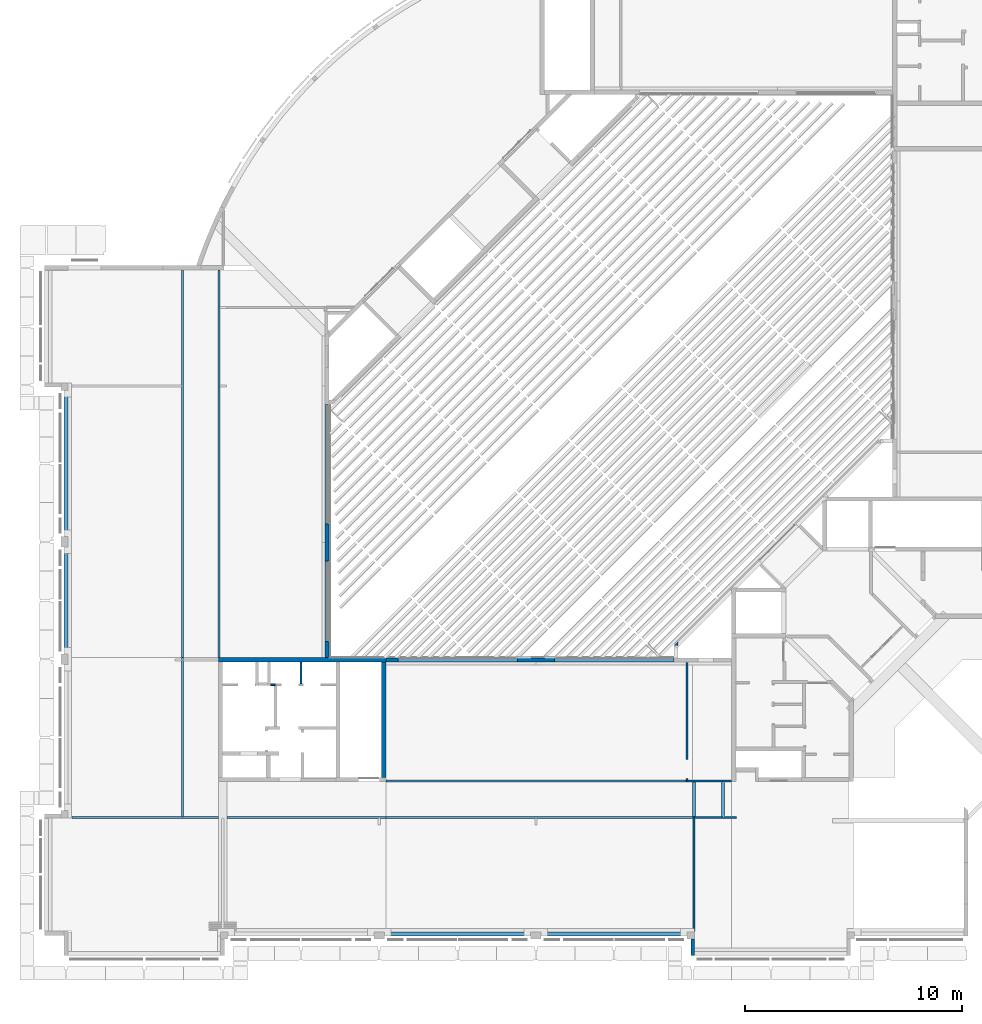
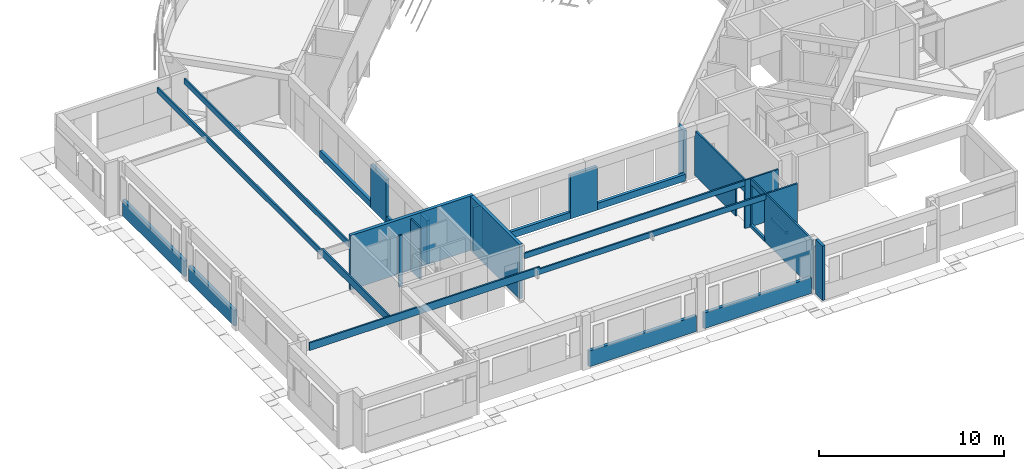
# One storey, part 25 of 37: 28 walls.
"""IFC4X3_ADD2 building model written with IfcOpenShell, lengths in millimetres."""

from ifc_helpers import new_model, si_unit, direction, frame, frame_2d, origin_with_axes, origin_2d_with_axis, place, context, subcontext, project, spatial, polyline, rectangle, outline, extrude, source, transform, mapped, material, type_object, type_shapes, element, save


model = new_model("IFC4X3_ADD2")

# Units and contexts
model_context = context("Model", 3, precision=1e-05, world=origin_with_axes(), true_north=direction((0.0, 1.0)))
body_context = subcontext(model_context, "Body", "Model", "MODEL_VIEW")
ifc_project = project(units=[si_unit("LENGTHUNIT", "METRE", prefix="MILLI"), si_unit("AREAUNIT", "SQUARE_METRE"), si_unit("VOLUMEUNIT", "CUBIC_METRE"), si_unit("PLANEANGLEUNIT", "RADIAN"), si_unit("TIMEUNIT", "SECOND"), si_unit("MASSUNIT", "GRAM")], contexts=[model_context])

# Site, building, storey
site_placement = place(None, origin_with_axes())
site = spatial("IfcSite", under=ifc_project, at=site_placement, Name="Site", CompositionType="ELEMENT")
building_placement = place(site_placement, origin_with_axes())
building = spatial("IfcBuilding", under=site, at=building_placement, Name="IFC Building Story")
storey_placement = place(building_placement, frame((0.0, 0.0, 3600.0), z_axis=(0.0, 0.0, 1.0), x_axis=(1.0, 0.0, 0.0)))
storey = spatial("IfcBuildingStorey", under=building, at=storey_placement, Name="010", Elevation=3600.0)

# Walls
ifc_material_1 = material(Name="BB_Beton_Bestaand")
wall_type_1 = type_object("IfcWallType", Name="BB_Beton_Bestaand 200", PredefinedType="NOTDEFINED", material=ifc_material_1)
wall_1_placement = place(storey_placement, origin_with_axes())
element("IfcWall", 1, at=wall_1_placement, inside=storey, type_object=wall_type_1, Name="Basic Wall:BB_XX_Wand uit beton, 200 mm", ObjectType="Basic Wall:BB_XX_Wand uit beton, 200 mm", PredefinedType="SOLIDWALL", context=body_context, shape_type="SweptSolid", body=[
    extrude(rectangle(XDim=7699.999999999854, YDim=199.9999999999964, at=origin_2d_with_axis()), frame((-39850.00000000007, 12600.0040658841, -80.0), z_axis=(0.0, 0.0, 1.0), x_axis=(1.0, 0.0, 0.0)), (0.0, 0.0, 1.0), 3600.0),
])
wall_2_placement = place(storey_placement, origin_with_axes())
element("IfcWall", 2, at=wall_2_placement, inside=storey, type_object=wall_type_1, Name="Basic Wall:BB_XX_Wand uit beton, 200 mm", ObjectType="Basic Wall:BB_XX_Wand uit beton, 200 mm", PredefinedType="SOLIDWALL", context=body_context, shape_type="SweptSolid", body=[
    extrude(rectangle(XDim=5300.00406588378, YDim=200.0, at=frame_2d((0.0, 0.0), x_axis=(0.0, 1.0))), frame((-36100.0, 9850.002032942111, -80.0), z_axis=(0.0, 0.0, 1.0), x_axis=(1.0, 0.0, 0.0)), (0.0, 0.0, 1.0), 3600.0),
])
wall_type_2 = type_object("IfcWallType", Name="BB_Beton_Bestaand 190", PredefinedType="NOTDEFINED", material=ifc_material_1)
wall_3_placement = place(storey_placement, origin_with_axes())
element("IfcWall", 3, at=wall_3_placement, inside=storey, type_object=wall_type_2, Name="Basic Wall:BB_XX_Wand uit beton, 190 mm", ObjectType="Basic Wall:BB_XX_Wand uit beton, 190 mm", PredefinedType="SOLIDWALL", context=body_context, shape_type="SweptSolid", body=[
    extrude(rectangle(XDim=4910.0, YDim=189.9999999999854, at=frame_2d((0.0, 0.0), x_axis=(0.0, 1.0))), frame((-50700.0, 15300.00000000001, -200.0), z_axis=(0.0, 0.0, 1.0), x_axis=(1.0, 0.0, 0.0)), (0.0, 0.0, 1.0), 1040.0),
])
wall_4_placement = place(storey_placement, origin_with_axes())
element("IfcWall", 4, at=wall_4_placement, inside=storey, type_object=wall_type_2, Name="Basic Wall:BB_XX_Wand uit beton, 190 mm", ObjectType="Basic Wall:BB_XX_Wand uit beton, 190 mm", PredefinedType="SOLIDWALL", context=body_context, shape_type="SweptSolid", body=[
    extrude(rectangle(XDim=6710.000000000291, YDim=189.9999999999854, at=frame_2d((0.0, 0.0), x_axis=(0.0, 1.0))), frame((-50700.0, 21600.00000000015, -200.0), z_axis=(0.0, 0.0, 1.0), x_axis=(1.0, 0.0, 0.0)), (0.0, 0.0, 1.0), 1040.0),
])
wall_5_placement = place(storey_placement, origin_with_axes())
element("IfcWall", 5, at=wall_5_placement, inside=storey, type_object=wall_type_2, Name="Basic Wall:BB_XX_Wand uit beton, 190 mm", ObjectType="Basic Wall:BB_XX_Wand uit beton, 190 mm", PredefinedType="SOLIDWALL", context=body_context, shape_type="SweptSolid", body=[
    extrude(rectangle(XDim=6709.999999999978, YDim=190.0, at=origin_2d_with_axis()), frame((-32700.00000000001, 0.0, -200.0), z_axis=(0.0, 0.0, 1.0), x_axis=(1.0, 0.0, 0.0)), (0.0, 0.0, 1.0), 1040.0),
])
wall_6_placement = place(storey_placement, origin_with_axes())
element("IfcWall", 6, at=wall_6_placement, inside=storey, type_object=wall_type_2, Name="Basic Wall:BB_XX_Wand uit beton, 190 mm", ObjectType="Basic Wall:BB_XX_Wand uit beton, 190 mm", PredefinedType="SOLIDWALL", context=body_context, shape_type="SweptSolid", body=[
    extrude(rectangle(XDim=6709.999999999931, YDim=190.0, at=origin_2d_with_axis()), frame((-25500.00000000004, 0.0, -200.0), z_axis=(0.0, 0.0, 1.0), x_axis=(1.0, 0.0, 0.0)), (0.0, 0.0, 1.0), 1040.0),
])
wall_7_placement = place(storey_placement, origin_with_axes())
element("IfcWall", 7, at=wall_7_placement, inside=storey, type_object=wall_type_2, Name="Basic Wall:BB_XX_Wand uit beton, 190 mm", ObjectType="Basic Wall:BB_XX_Wand uit beton, 190 mm", PredefinedType="SOLIDWALL", context=body_context, shape_type="SweptSolid", body=[
    extrude(rectangle(XDim=554.9999999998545, YDim=190.0, at=origin_2d_with_axis()), frame((-35722.50000000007, 12600.004065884, -200.0), z_axis=(0.0, 0.0, 1.0), x_axis=(1.0, 0.0, 0.0)), (0.0, 0.0, 1.0), 2880.0),
])
wall_8_placement = place(storey_placement, origin_with_axes())
element("IfcWall", 8, at=wall_8_placement, inside=storey, type_object=wall_type_2, Name="Basic Wall:BB_XX_Wand uit beton, 190 mm", ObjectType="Basic Wall:BB_XX_Wand uit beton, 190 mm", PredefinedType="SOLIDWALL", context=body_context, shape_type="SweptSolid", body=[
    extrude(rectangle(XDim=1709.999999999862, YDim=190.0, at=origin_2d_with_axis()), frame((-29100.0, 12600.004065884, -200.0), z_axis=(0.0, 0.0, 1.0), x_axis=(1.0, 0.0, 0.0)), (0.0, 0.0, 1.0), 2880.0),
])
wall_9_placement = place(storey_placement, origin_with_axes())
element("IfcWall", 9, at=wall_9_placement, inside=storey, type_object=wall_type_2, Name="Basic Wall:BB_XX_Wand uit beton, 190 mm", ObjectType="Basic Wall:BB_XX_Wand uit beton, 190 mm", PredefinedType="SOLIDWALL", context=body_context, shape_type="SweptSolid", body=[
    extrude(rectangle(XDim=754.995934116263, YDim=190.0, at=frame_2d((0.0, 0.0), x_axis=(0.0, 1.0))), frame((-38700.0, 13077.50203294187, -200.0), z_axis=(0.0, 0.0, 1.0), x_axis=(1.0, 0.0, 0.0)), (0.0, 0.0, 1.0), 2880.0),
])
wall_10_placement = place(storey_placement, origin_with_axes())
element("IfcWall", 10, at=wall_10_placement, inside=storey, type_object=wall_type_2, Name="Basic Wall:BB_XX_Wand uit beton, 190 mm", ObjectType="Basic Wall:BB_XX_Wand uit beton, 190 mm", PredefinedType="SOLIDWALL", context=body_context, shape_type="SweptSolid", body=[
    extrude(rectangle(XDim=1710.0, YDim=190.0, at=frame_2d((0.0, 0.0), x_axis=(0.0, 1.0))), frame((-38700.0, 18000.0, -200.0), z_axis=(0.0, 0.0, 1.0), x_axis=(1.0, 0.0, 0.0)), (0.0, 0.0, 1.0), 2880.0),
])
wall_11_placement = place(storey_placement, origin_with_axes())
element("IfcWall", 11, at=wall_11_placement, inside=storey, type_object=wall_type_2, Name="Basic Wall:BB_XX_Wand uit beton, 190 mm", ObjectType="Basic Wall:BB_XX_Wand uit beton, 190 mm", PredefinedType="SOLIDWALL", context=body_context, shape_type="SweptSolid", body=[
    extrude(rectangle(XDim=3689.999999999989, YDim=190.0, at=frame_2d((0.0, 0.0), x_axis=(0.0, 1.0))), frame((-38700.0, 15300.00000000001, -200.0), z_axis=(0.0, 0.0, 1.0), x_axis=(1.0, 0.0, 0.0)), (0.0, 0.0, 1.0), 449.999999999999),
])
wall_12_placement = place(storey_placement, origin_with_axes())
element("IfcWall", 12, at=wall_12_placement, inside=storey, type_object=wall_type_2, Name="Basic Wall:BB_XX_Wand uit beton, 190 mm", ObjectType="Basic Wall:BB_XX_Wand uit beton, 190 mm", PredefinedType="SOLIDWALL", context=body_context, shape_type="SweptSolid", body=[
    extrude(rectangle(XDim=5489.999999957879, YDim=190.0, at=frame_2d((0.0, 0.0), x_axis=(0.0, 1.0))), frame((-38700.0, 21600.00000002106, -200.0), z_axis=(0.0, 0.0, 1.0), x_axis=(1.0, 0.0, 0.0)), (0.0, 0.0, 1.0), 449.999999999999),
])
wall_13_placement = place(storey_placement, origin_with_axes())
element("IfcWall", 13, at=wall_13_placement, inside=storey, type_object=wall_type_2, Name="Basic Wall:BB_XX_Wand uit beton, 190 mm", ObjectType="Basic Wall:BB_XX_Wand uit beton, 190 mm", PredefinedType="SOLIDWALL", context=body_context, shape_type="SweptSolid", body=[
    extrude(rectangle(XDim=5490.000000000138, YDim=190.0, at=origin_2d_with_axis()), frame((-25499.99999999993, 12600.004065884, -200.0), z_axis=(0.0, 0.0, 1.0), x_axis=(1.0, 0.0, 0.0)), (0.0, 0.0, 1.0), 449.999999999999),
])
wall_14_placement = place(storey_placement, origin_with_axes())
element("IfcWall", 14, at=wall_14_placement, inside=storey, type_object=wall_type_2, Name="Basic Wall:BB_XX_Wand uit beton, 190 mm", ObjectType="Basic Wall:BB_XX_Wand uit beton, 190 mm", PredefinedType="SOLIDWALL", context=body_context, shape_type="SweptSolid", body=[
    extrude(rectangle(XDim=5490.0, YDim=190.0, at=origin_2d_with_axis()), frame((-32700.0, 12600.004065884, -200.0), z_axis=(0.0, 0.0, 1.0), x_axis=(1.0, 0.0, 0.0)), (0.0, 0.0, 1.0), 449.999999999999),
])
wall_type_3 = type_object("IfcWallType", Name="BB_Beton_Bestaand 170", PredefinedType="NOTDEFINED", material=ifc_material_1)
wall_15_placement = place(storey_placement, origin_with_axes())
element("IfcWall", 15, at=wall_15_placement, inside=storey, type_object=wall_type_3, Name="Basic Wall:BB_XX_Wand uit beton, 170 mm", ObjectType="Basic Wall:BB_XX_Wand uit beton, 170 mm", PredefinedType="SOLIDWALL", context=body_context, shape_type="SweptSolid", body=[
    extrude(rectangle(XDim=750.00000000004, YDim=169.9999999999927, at=frame_2d((0.0, 0.0), x_axis=(0.0, 1.0))), frame((-21890.0, -619.99999999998, -200.0), z_axis=(0.0, 0.0, 1.0), x_axis=(1.0, 0.0, 0.0)), (0.0, 0.0, 1.0), 3600.0),
])
ifc_material_2 = material(Name="BB_Metselwerk_Betonsteen")
wall_type_4 = type_object("IfcWallType", Name="BB_Metselwerk_Betonsteen 190", PredefinedType="NOTDEFINED", material=ifc_material_2)
wall_16_placement = place(storey_placement, origin_with_axes())
element("IfcWall", 16, at=wall_16_placement, inside=storey, type_object=wall_type_4, Name="Basic Wall:BB_03.09.24#03_Wand uit metselwerk, 190 mm", ObjectType="Basic Wall:BB_03.09.24#03_Wand uit metselwerk, 190 mm", PredefinedType="SOLIDWALL", context=body_context, shape_type="SweptSolid", body=[
    extrude(outline(polyline([(95.0, 424.8958182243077), (95.0, -329.8958182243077), (-95.0, -329.8958182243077), (-95.0, 234.8958182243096), (95.0, 424.8958182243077)])), frame((-22649.8526351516, 13024.89988410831, -200.0), z_axis=(0.0, 0.0, 1.0), x_axis=(1.0, 0.0, 0.0)), (0.0, 0.0, 1.0), 3200.00000005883),
])
wall_type_5 = type_object("IfcWallType", Name="Basic Wall_BB_10.01.41#21_Gipskartonwand_EI60_43dB_MS100 _ 25.50.25_ 100 mm21", PredefinedType="NOTDEFINED")
shared_shape_1 = source(origin_with_axes(), body_context, "Body", "SweptSolid", [
    extrude(rectangle(XDim=2085.000000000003, YDim=12.49999999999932, at=origin_2d_with_axis()), frame((1042.500000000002, 43.74999999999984, 0.0), z_axis=(0.0, 0.0, 1.0), x_axis=(1.0, 0.0, 0.0)), (0.0, 0.0, 1.0), 3200.0),
    extrude(outline(polyline([(-1385.833333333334, -2068.333333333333), (-1385.833333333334, 1131.666666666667), (699.1666666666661, 1131.666666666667), (699.1666666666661, 936.6666666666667), (686.6666666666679, 936.6666666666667), (686.6666666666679, -2068.333333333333), (-1385.833333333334, -2068.333333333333)])), frame((1385.833333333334, 25.0000000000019, 1131.666666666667), z_axis=(0.0, 1.0, 0.0), x_axis=(1.0, 0.0, 0.0)), (0.0, 0.0, 1.0), 12.5000000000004),
    extrude(outline(polyline([(-1381.666666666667, -2068.333333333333), (-1381.666666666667, 1131.666666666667), (703.333333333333, 1131.666666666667), (703.333333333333, 936.6666666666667), (678.3333333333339, 936.6666666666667), (678.3333333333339, -2068.333333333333), (-1381.666666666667, -2068.333333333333)])), frame((1381.666666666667, -24.9999999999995, 1131.666666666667), z_axis=(0.0, 1.0, 0.0), x_axis=(1.0, 0.0, 0.0)), (0.0, 0.0, 1.0), 49.9999999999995),
    extrude(outline(polyline([(-1365.000000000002, -2068.333333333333), (-1365.000000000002, 1131.666666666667), (720.0000000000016, 1131.666666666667), (720.0000000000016, 936.6666666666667), (645.0, 936.6666666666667), (645.0, -2068.333333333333), (-1365.000000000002, -2068.333333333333)])), frame((1365.000000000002, -37.5000000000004, 1131.666666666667), z_axis=(0.0, 1.0, 0.0), x_axis=(1.0, 0.0, 0.0)), (0.0, 0.0, 1.0), 12.5000000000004),
    extrude(outline(polyline([(-1360.833333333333, -2068.333333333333), (-1360.833333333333, 1131.666666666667), (724.1666666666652, 1131.666666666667), (724.1666666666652, 936.6666666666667), (636.6666666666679, 936.6666666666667), (636.6666666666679, -2068.333333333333), (-1360.833333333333, -2068.333333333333)])), frame((1360.833333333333, -49.9999999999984, 1131.666666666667), z_axis=(0.0, 1.0, 0.0), x_axis=(1.0, 0.0, 0.0)), (0.0, 0.0, 1.0), 12.5000000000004),
])
type_shapes(wall_type_5, [shared_shape_1])
wall_17_placement = place(storey_placement, frame((-20115.0, 7035.13019419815, -200.0), z_axis=(0.0, 0.0, 1.0), x_axis=(-1.0, 0.0, 0.0)))
element("IfcWall", 17, at=wall_17_placement, inside=storey, type_object=wall_type_5, Name="Basic Wall:BB_10.01.41#21_Gipskartonwand_EI60_43dB_MS100 / 25.50.25, 100 mm", ObjectType="Basic Wall:BB_10.01.41#21_Gipskartonwand_EI60_43dB_MS100 / 25.50.25, 100 mm", PredefinedType="PARTITIONING", context=body_context, shape_type="MappedRepresentation", body=[
    mapped(shared_shape_1, transform((0.0, 0.0, 0.0))),
])
wall_type_6 = type_object("IfcWallType", Name="Basic Wall_BB_10.01.41#01_Gipskartonwand_MS100 _ 25.50.25_ 100 mm21", PredefinedType="NOTDEFINED")
shared_shape_2 = source(origin_with_axes(), body_context, "Body", "SweptSolid", [
    extrude(outline(polyline([(-2398.949548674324, 1571.000000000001), (-2261.449548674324, 1571.000000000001), (-2261.449548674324, -594.0000000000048), (-1371.449548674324, -594.0000000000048), (-1371.449548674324, 1571.000000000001), (3083.424323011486, 1571.000000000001), (3083.424323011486, -1113.999999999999), (2948.424323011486, -1113.999999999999), (2948.424323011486, -1433.999999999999), (-2398.949548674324, -1433.999999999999), (-2398.949548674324, 1571.000000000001)])), frame((2311.449548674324, 37.49999999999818, 1571.000000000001), z_axis=(0.0, 1.0, 0.0), x_axis=(1.0, 0.0, 0.0)), (0.0, 0.0, 1.0), 12.50000000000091),
    extrude(outline(polyline([(-1373.949548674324, -594.0000000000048), (-1373.949548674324, 1571.000000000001), (3080.924323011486, 1571.000000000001), (3080.924323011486, -1113.999999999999), (2945.924323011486, -1113.999999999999), (2945.924323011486, -1433.999999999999), (-2388.949548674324, -1433.999999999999), (-2388.949548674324, 1571.000000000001), (-2263.949548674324, 1571.000000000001), (-2263.949548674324, -594.0000000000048), (-1373.949548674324, -594.0000000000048)])), frame((2313.949548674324, 24.99999999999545, 1571.000000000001), z_axis=(0.0, 1.0, 0.0), x_axis=(1.0, 0.0, 0.0)), (0.0, 0.0, 1.0), 12.50000000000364),
    extrude(outline(polyline([(-1385.949548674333, -594.0000000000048), (-1385.949548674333, 1571.000000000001), (3068.924323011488, 1571.000000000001), (3068.924323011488, -1113.999999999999), (2943.924323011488, -1113.999999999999), (2943.924323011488, -1433.999999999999), (-2350.949548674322, -1433.999999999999), (-2350.949548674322, 1571.000000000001), (-2275.949548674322, 1571.000000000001), (-2275.949548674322, -594.0000000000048), (-1385.949548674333, -594.0000000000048)])), frame((2325.949548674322, -24.99999999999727, 1571.000000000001), z_axis=(0.0, 1.0, 0.0), x_axis=(1.0, 0.0, 0.0)), (0.0, 0.0, 1.0), 49.99999999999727),
    extrude(outline(polyline([(-1386.44954867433, -594.0000000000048), (-1386.44954867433, 1571.000000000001), (3068.42432301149, 1571.000000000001), (3068.42432301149, -1113.999999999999), (2933.42432301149, -1113.999999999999), (2933.42432301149, -1433.999999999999), (-2338.94954867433, -1433.999999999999), (-2338.94954867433, 1571.000000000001), (-2276.449548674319, 1571.000000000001), (-2276.449548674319, -594.0000000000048), (-1386.44954867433, -594.0000000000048)])), frame((2326.449548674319, -37.50000000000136, 1571.000000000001), z_axis=(0.0, 1.0, 0.0), x_axis=(1.0, 0.0, 0.0)), (0.0, 0.0, 1.0), 12.50000000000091),
    extrude(outline(polyline([(2930.924323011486, -1433.999999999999), (-2328.949548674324, -1433.999999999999), (-2328.949548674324, 1571.000000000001), (-2278.949548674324, 1571.000000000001), (-2278.949548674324, -594.0000000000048), (-1388.949548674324, -594.0000000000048), (-1388.949548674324, 1571.000000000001), (3065.924323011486, 1571.000000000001), (3065.924323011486, -1113.999999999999), (2930.924323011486, -1113.999999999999), (2930.924323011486, -1433.999999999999)])), frame((2328.949548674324, -49.99999999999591, 1571.000000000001), z_axis=(0.0, 1.0, 0.0), x_axis=(1.0, 0.0, 0.0)), (0.0, 0.0, 1.0), 12.49999999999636),
])
type_shapes(wall_type_6, [shared_shape_2])
wall_18_placement = place(storey_placement, frame((-22150.0, 7085.13019419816, -5.0), z_axis=(0.0, 0.0, 1.0), x_axis=(0.0, 1.0, 0.0)))
element("IfcWall", 18, at=wall_18_placement, inside=storey, type_object=wall_type_6, Name="Basic Wall:BB_10.01.41#01_Gipskartonwand_MS100 / 25.50.25, 100 mm", ObjectType="Basic Wall:BB_10.01.41#01_Gipskartonwand_MS100 / 25.50.25, 100 mm", PredefinedType="PARTITIONING", context=body_context, shape_type="MappedRepresentation", body=[
    mapped(shared_shape_2, transform((0.0, 0.0, 0.0))),
])
wall_type_7 = type_object("IfcWallType", Name="Basic Wall_BB_10.01.41#21_Gipskartonwand_EI60_43dB_MS100 _ 25.50.25_ 100 mm23", PredefinedType="NOTDEFINED")
shared_shape_3 = source(origin_with_axes(), body_context, "Body", "SweptSolid", [
    extrude(rectangle(XDim=1895.000000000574, YDim=12.49999999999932, at=origin_2d_with_axis()), frame((947.500000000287, 43.75000000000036, 0.0), z_axis=(0.0, 0.0, 1.0), x_axis=(1.0, 0.0, 0.0)), (0.0, 0.0, 1.0), 3207.06432301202),
    extrude(rectangle(XDim=1895.000000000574, YDim=12.5000000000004, at=origin_2d_with_axis()), frame((947.500000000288, 31.2500000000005, 0.0), z_axis=(0.0, 0.0, 1.0), x_axis=(1.0, 0.0, 0.0)), (0.0, 0.0, 1.0), 3207.06432301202),
    extrude(outline(polyline([(-648.3333333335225, 2135.688107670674), (1271.666666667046, 2135.688107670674), (1271.666666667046, -1071.376215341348), (-623.3333333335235, -1071.376215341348), (-623.3333333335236, -1064.311892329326), (-648.3333333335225, -1064.311892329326), (-648.3333333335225, 2135.688107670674)])), frame((623.3333333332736, -25.0, 2135.688107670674), z_axis=(0.0, 1.0, 0.0), x_axis=(1.0, 0.0, 0.0)), (0.0, 0.0, 1.0), 49.9999999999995),
    extrude(outline(polyline([(-640.000000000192, 2135.688107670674), (1267.500000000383, 2135.688107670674), (1267.500000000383, -1071.376215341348), (-627.500000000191, -1071.376215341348), (-627.500000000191, -1064.311892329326), (-640.000000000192, -1064.311892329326), (-640.000000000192, 2135.688107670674)])), frame((627.500000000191, -37.50000000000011, 2135.688107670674), z_axis=(0.0, 1.0, 0.0), x_axis=(1.0, 0.0, 0.0)), (0.0, 0.0, 1.0), 12.50000000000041),
    extrude(rectangle(XDim=1895.000000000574, YDim=12.50000000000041, at=origin_2d_with_axis()), frame((947.5000000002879, -43.7499999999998, 0.0), z_axis=(0.0, 0.0, 1.0), x_axis=(1.0, 0.0, 0.0)), (0.0, 0.0, 1.0), 3207.06432301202),
])
type_shapes(wall_type_7, [shared_shape_3])
wall_19_placement = place(storey_placement, frame((-21780.0, 5350.0, -200.0), z_axis=(0.0, 0.0, 1.0), x_axis=(1.0, 0.0, 0.0)))
element("IfcWall", 19, at=wall_19_placement, inside=storey, type_object=wall_type_7, Name="Basic Wall:BB_10.01.41#21_Gipskartonwand_EI60_43dB_MS100 / 25.50.25, 100 mm", ObjectType="Basic Wall:BB_10.01.41#21_Gipskartonwand_EI60_43dB_MS100 / 25.50.25, 100 mm", PredefinedType="PARTITIONING", context=body_context, shape_type="MappedRepresentation", body=[
    mapped(shared_shape_3, transform((0.0, 0.0, 0.0))),
])
wall_type_8 = type_object("IfcWallType", Name="Basic Wall_BB_10.01.41#01_Gipskartonwand_MS100 _ 25.50.25_ 100 mm49", PredefinedType="NOTDEFINED")
shared_shape_4 = source(origin_with_axes(), body_context, "Body", "SweptSolid", [
    extrude(rectangle(XDim=13800.00000000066, YDim=12.49999999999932, at=origin_2d_with_axis()), frame((6900.0, 43.7499999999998, 0.0), z_axis=(0.0, 0.0, 1.0), x_axis=(1.0, 0.0, 0.0)), (0.0, 0.0, 1.0), 360.0),
    extrude(rectangle(XDim=13800.00000000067, YDim=12.5000000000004, at=origin_2d_with_axis()), frame((6899.999999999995, 31.2500000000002, 0.0), z_axis=(0.0, 0.0, 1.0), x_axis=(1.0, 0.0, 0.0)), (0.0, 0.0, 1.0), 360.0),
    extrude(rectangle(XDim=13800.00000000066, YDim=49.9999999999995, at=origin_2d_with_axis()), frame((6900.0, 0.0, 0.0), z_axis=(0.0, 0.0, 1.0), x_axis=(1.0, 0.0, 0.0)), (0.0, 0.0, 1.0), 360.0),
    extrude(rectangle(XDim=13800.00000000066, YDim=12.5000000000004, at=origin_2d_with_axis()), frame((6900.000000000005, -31.2499999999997, 0.0), z_axis=(0.0, 0.0, 1.0), x_axis=(1.0, 0.0, 0.0)), (0.0, 0.0, 1.0), 360.0),
    extrude(rectangle(XDim=13800.00000000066, YDim=12.50000000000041, at=origin_2d_with_axis()), frame((6900.0, -43.75000000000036, 0.0), z_axis=(0.0, 0.0, 1.0), x_axis=(1.0, 0.0, 0.0)), (0.0, 0.0, 1.0), 360.0),
])
type_shapes(wall_type_8, [shared_shape_4])
wall_20_placement = place(storey_placement, frame((-22200.0, 7035.13019419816, 2640.0), z_axis=(0.0, 0.0, 1.0), x_axis=(-1.0, 0.0, 0.0)))
element("IfcWall", 20, at=wall_20_placement, inside=storey, type_object=wall_type_8, Name="Basic Wall:BB_10.01.41#01_Gipskartonwand_MS100 / 25.50.25, 100 mm", ObjectType="Basic Wall:BB_10.01.41#01_Gipskartonwand_MS100 / 25.50.25, 100 mm", PredefinedType="PARTITIONING", context=body_context, shape_type="MappedRepresentation", body=[
    mapped(shared_shape_4, transform((0.0, 0.0, 0.0))),
])
wall_type_9 = type_object("IfcWallType", Name="Basic Wall_BB_10.01.41#01_Gipskartonwand_MS100 _ 25.50.25_ 100 mm51", PredefinedType="NOTDEFINED")
shared_shape_5 = source(origin_with_axes(), body_context, "Body", "SweptSolid", [
    extrude(outline(polyline([(-11367.99999999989, 364.0), (17181.99999999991, 364.0), (17181.99999999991, 3.999999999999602), (3062.000000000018, 3.999999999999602), (3062.000000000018, -135.9999999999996), (-4238.000000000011, -135.9999999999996), (-4238.000000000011, -96.0), (-4638.000000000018, -96.0), (-4638.000000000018, -136.0), (-11367.99999999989, -135.9999999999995), (-11367.99999999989, 364.0)])), frame((11367.99999999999, 37.50000000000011, 363.9999999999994), z_axis=(0.0, 1.0, 0.0), x_axis=(1.0, 0.0, 0.0)), (0.0, 0.0, 1.0), 12.4999999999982),
    extrude(outline(polyline([(-11367.99999999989, 364.0), (17181.99999999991, 364.0), (17181.99999999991, 3.999999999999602), (3062.000000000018, 3.999999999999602), (3062.000000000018, -135.9999999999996), (-4238.000000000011, -135.9999999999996), (-4238.000000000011, -96.0), (-4638.000000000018, -96.0), (-4638.000000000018, -136.0), (-11367.99999999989, -135.9999999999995), (-11367.99999999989, 364.0)])), frame((11367.99999999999, 25.0, 363.9999999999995), z_axis=(0.0, 1.0, 0.0), x_axis=(1.0, 0.0, 0.0)), (0.0, 0.0, 1.0), 12.5000000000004),
    extrude(outline(polyline([(-11367.99999999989, 364.0), (17181.99999999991, 364.0), (17181.99999999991, 3.999999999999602), (3062.000000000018, 3.999999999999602), (3062.000000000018, -135.9999999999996), (-4238.000000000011, -135.9999999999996), (-4238.000000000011, -96.0), (-4638.000000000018, -96.0), (-4638.000000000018, -136.0), (-11367.99999999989, -135.9999999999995), (-11367.99999999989, 364.0)])), frame((11367.99999999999, -25.0, 363.9999999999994), z_axis=(0.0, 1.0, 0.0), x_axis=(1.0, 0.0, 0.0)), (0.0, 0.0, 1.0), 49.9999999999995),
    extrude(outline(polyline([(-11367.99999999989, 364.0), (17181.99999999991, 364.0), (17181.99999999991, 3.999999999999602), (3062.000000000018, 3.999999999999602), (3062.000000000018, -135.9999999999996), (-4238.000000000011, -135.9999999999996), (-4238.000000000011, -96.0), (-4638.000000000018, -96.0), (-4638.000000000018, -136.0), (-11367.99999999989, -135.9999999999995), (-11367.99999999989, 364.0)])), frame((11367.99999999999, -37.50000000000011, 363.9999999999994), z_axis=(0.0, 1.0, 0.0), x_axis=(1.0, 0.0, 0.0)), (0.0, 0.0, 1.0), 12.5000000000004),
    extrude(outline(polyline([(-11367.99999999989, 364.0), (17181.99999999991, 364.0), (17181.99999999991, 3.999999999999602), (3062.000000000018, 3.999999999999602), (3062.000000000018, -135.9999999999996), (-4238.000000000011, -135.9999999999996), (-4238.000000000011, -96.0), (-4638.000000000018, -96.0), (-4638.000000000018, -136.0), (-11367.99999999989, -135.9999999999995), (-11367.99999999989, 364.0)])), frame((11368.0000000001, -50.0, 363.9999999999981), z_axis=(0.0, 1.0, 0.0), x_axis=(1.0, 0.0, 0.0)), (0.0, 0.0, 1.0), 12.50000000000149),
])
type_shapes(wall_type_9, [shared_shape_5])
wall_21_placement = place(storey_placement, frame((-50430.0, 5350.0, 2640.0), z_axis=(0.0, 0.0, 1.0), x_axis=(1.0, 0.0, 0.0)))
element("IfcWall", 21, at=wall_21_placement, inside=storey, type_object=wall_type_9, Name="Basic Wall:BB_10.01.41#01_Gipskartonwand_MS100 / 25.50.25, 100 mm", ObjectType="Basic Wall:BB_10.01.41#01_Gipskartonwand_MS100 / 25.50.25, 100 mm", PredefinedType="PARTITIONING", context=body_context, shape_type="MappedRepresentation", body=[
    mapped(shared_shape_5, transform((0.0, 0.0, 0.0))),
])
wall_type_10 = type_object("IfcWallType", Name="Basic Wall_BB_10.01.41#01_Gipskartonwand_MS100 _ 25.50.25_ 100 mm57", PredefinedType="NOTDEFINED")
shared_shape_6 = source(origin_with_axes(), body_context, "Body", "SweptSolid", [
    extrude(rectangle(XDim=17824.99593411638, YDim=12.49999999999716, at=origin_2d_with_axis()), frame((8912.49796705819, 43.74999999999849, 0.0), z_axis=(0.0, 0.0, 1.0), x_axis=(1.0, 0.0, 0.0)), (0.0, 0.0, 1.0), 360.0),
    extrude(rectangle(XDim=17824.99593411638, YDim=12.49999999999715, at=origin_2d_with_axis()), frame((8912.49796705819, 31.2500000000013, 0.0), z_axis=(0.0, 0.0, 1.0), x_axis=(1.0, 0.0, 0.0)), (0.0, 0.0, 1.0), 360.0),
    extrude(rectangle(XDim=17834.99593411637, YDim=50.0000000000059, at=origin_2d_with_axis()), frame((8917.497967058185, -4.32631708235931e-12, 0.0), z_axis=(0.0, 0.0, 1.0), x_axis=(1.0, 0.0, 0.0)), (0.0, 0.0, 1.0), 360.0),
    extrude(rectangle(XDim=17834.99593411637, YDim=12.49999999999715, at=origin_2d_with_axis()), frame((8917.497967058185, -31.2500000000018, 0.0), z_axis=(0.0, 0.0, 1.0), x_axis=(1.0, 0.0, 0.0)), (0.0, 0.0, 1.0), 360.0),
    extrude(rectangle(XDim=17834.99593411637, YDim=12.50000000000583, at=origin_2d_with_axis()), frame((8917.497967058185, -43.75000000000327, 0.0), z_axis=(0.0, 0.0, 1.0), x_axis=(1.0, 0.0, 0.0)), (0.0, 0.0, 1.0), 360.0),
])
type_shapes(wall_type_10, [shared_shape_6])
wall_22_placement = place(storey_placement, frame((-43665.0, 12700.004065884, 2640.0), z_axis=(0.0, 0.0, 1.0), x_axis=(0.0, 1.0, 0.0)))
element("IfcWall", 22, at=wall_22_placement, inside=storey, type_object=wall_type_10, Name="Basic Wall:BB_10.01.41#01_Gipskartonwand_MS100 / 25.50.25, 100 mm", ObjectType="Basic Wall:BB_10.01.41#01_Gipskartonwand_MS100 / 25.50.25, 100 mm", PredefinedType="PARTITIONING", context=body_context, shape_type="MappedRepresentation", body=[
    mapped(shared_shape_6, transform((0.0, 0.0, 0.0))),
])
wall_type_11 = type_object("IfcWallType", Name="Basic Wall_BB_10.01.41#01_Gipskartonwand_MS100 _ 25.50.25_ 100 mm59", PredefinedType="NOTDEFINED")
shared_shape_7 = source(origin_with_axes(), body_context, "Body", "SweptSolid", [
    extrude(outline(polyline([(-14316.66531137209, 286.6666666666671), (10808.33468862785, 286.6666666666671), (10808.33468862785, -213.3333333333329), (3508.330622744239, -213.3333333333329), (3508.330622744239, -73.33333333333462), (-14316.66531137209, -73.33333333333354), (-14316.66531137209, 286.6666666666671)])), frame((14301.66531137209, 37.5, 286.6666666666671), z_axis=(0.0, 1.0, 0.0), x_axis=(1.0, 0.0, 0.0)), (0.0, 0.0, 1.0), 12.49999999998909),
    extrude(outline(polyline([(-14316.66531137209, 286.6666666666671), (10808.33468862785, 286.6666666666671), (10808.33468862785, -213.3333333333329), (3508.330622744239, -213.3333333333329), (3508.330622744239, -73.33333333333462), (-14316.66531137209, -73.33333333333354), (-14316.66531137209, 286.6666666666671)])), frame((14301.66531137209, 25.0, 286.6666666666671), z_axis=(0.0, 1.0, 0.0), x_axis=(1.0, 0.0, 0.0)), (0.0, 0.0, 1.0), 12.49999999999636),
    extrude(outline(polyline([(-14331.66531137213, 286.6666666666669), (10828.33468862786, 286.6666666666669), (10828.33468862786, -213.3333333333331), (3503.330622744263, -213.3333333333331), (3503.330622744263, -73.33333333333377), (-14331.66531137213, -73.33333333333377), (-14331.66531137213, 286.6666666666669)])), frame((14306.66531137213, -25.0, 286.6666666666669), z_axis=(0.0, 1.0, 0.0), x_axis=(1.0, 0.0, 0.0)), (0.0, 0.0, 1.0), 50.00000000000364),
    extrude(outline(polyline([(-14320.8319780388, 286.6666666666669), (10816.6680219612, 286.6666666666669), (10816.6680219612, -213.3333333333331), (3504.163956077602, -213.3333333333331), (3504.163956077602, -73.33333333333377), (-14320.8319780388, -73.33333333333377), (-14320.8319780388, 286.6666666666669)])), frame((14305.8319780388, -37.5, 286.6666666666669), z_axis=(0.0, 1.0, 0.0), x_axis=(1.0, 0.0, 0.0)), (0.0, 0.0, 1.0), 12.5),
    extrude(outline(polyline([(-14316.66531137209, 286.6666666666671), (10808.33468862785, 286.6666666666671), (10808.33468862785, -213.3333333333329), (3508.330622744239, -213.3333333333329), (3508.330622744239, -73.33333333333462), (-14316.66531137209, -73.33333333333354), (-14316.66531137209, 286.6666666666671)])), frame((14301.66531137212, -50.0, 286.6666666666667), z_axis=(0.0, 1.0, 0.0), x_axis=(1.0, 0.0, 0.0)), (0.0, 0.0, 1.0), 12.50000000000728),
])
type_shapes(wall_type_11, [shared_shape_7])
wall_23_placement = place(storey_placement, frame((-45350.0, 30510.0, 2640.0), z_axis=(0.0, 0.0, 1.0), x_axis=(0.0, -1.0, 0.0)))
element("IfcWall", 23, at=wall_23_placement, inside=storey, type_object=wall_type_11, Name="Basic Wall:BB_10.01.41#01_Gipskartonwand_MS100 / 25.50.25, 100 mm", ObjectType="Basic Wall:BB_10.01.41#01_Gipskartonwand_MS100 / 25.50.25, 100 mm", PredefinedType="PARTITIONING", context=body_context, shape_type="MappedRepresentation", body=[
    mapped(shared_shape_7, transform((0.0, 0.0, 0.0))),
])
wall_type_12 = type_object("IfcWallType", Name="Basic Wall_BB_10.01.41#21_Gipskartonwand_EI60_43dB_MS100 _ 25.50.25_ 100 mm33", PredefinedType="NOTDEFINED")
shared_shape_8 = source(origin_with_axes(), body_context, "Body", "SweptSolid", [
    extrude(outline(polyline([(2123.31163430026, 1960.0), (2123.311634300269, -880.0), (3643.311634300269, -880.0000000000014), (3643.311634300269, 1960.0), (3673.441828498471, 1960.0), (3673.441828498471, -1240.0), (-3041.68836569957, -1240.0), (-3041.68836569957, -919.9999999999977), (-3206.68836569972, -920.0), (-3206.68836569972, -880.0), (-3191.68836569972, -880.0000000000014), (-3191.68836569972, 1960.0), (2123.31163430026, 1960.0)])), frame((3191.68836569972, 37.49999999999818, 1960.0), z_axis=(0.0, 1.0, 0.0), x_axis=(1.0, 0.0, 0.0)), (0.0, 0.0, 1.0), 12.50000000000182),
    extrude(outline(polyline([(2123.31163430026, 1960.0), (2123.311634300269, -880.0), (3643.311634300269, -880.0000000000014), (3643.311634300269, 1960.0), (3673.441828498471, 1960.0), (3673.441828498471, -1240.0), (-3041.68836569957, -1240.0), (-3041.68836569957, -919.9999999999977), (-3206.68836569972, -920.0), (-3206.68836569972, -880.0), (-3191.68836569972, -880.0000000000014), (-3191.68836569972, 1960.0), (2123.31163430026, 1960.0)])), frame((3191.68836569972, 25.00000000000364, 1960.0), z_axis=(0.0, 1.0, 0.0), x_axis=(1.0, 0.0, 0.0)), (0.0, 0.0, 1.0), 12.50000000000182),
    extrude(outline(polyline([(2120.811634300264, 1960.0), (2120.811634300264, -880.0), (3640.811634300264, -880.0000000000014), (3640.811634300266, 1960.0), (3695.941828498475, 1960.0), (3695.941828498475, -1240.0), (-3044.188365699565, -1240.0), (-3044.188365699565, -919.9999999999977), (-3219.188365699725, -920.0), (-3219.188365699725, -880.0), (-3194.188365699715, -880.0000000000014), (-3194.188365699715, 1960.0), (2120.811634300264, 1960.0)])), frame((3194.188365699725, -24.99999999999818, 1960.0), z_axis=(0.0, 1.0, 0.0), x_axis=(1.0, 0.0, 0.0)), (0.0, 0.0, 1.0), 49.99999999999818),
    extrude(outline(polyline([(2122.894967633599, 1960.0), (2122.894967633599, -880.0), (3642.894967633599, -880.0000000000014), (3642.894967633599, 1960.0), (3685.52516183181, 1960.0), (3685.52516183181, -1240.0), (-3042.10503236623, -1240.0), (-3042.10503236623, -919.9999999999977), (-3217.10503236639, -920.0), (-3217.10503236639, -880.0), (-3192.10503236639, -880.0000000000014), (-3192.10503236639, 1960.0), (2122.894967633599, 1960.0)])), frame((3192.10503236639, -37.50000000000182, 1960.0), z_axis=(0.0, 1.0, 0.0), x_axis=(1.0, 0.0, 0.0)), (0.0, 0.0, 1.0), 12.50000000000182),
    extrude(outline(polyline([(2124.978300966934, 1960.0), (2124.978300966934, -880.0), (3644.978300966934, -880.0000000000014), (3644.978300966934, 1960.0), (3675.108495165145, 1960.0), (3675.108495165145, -1240.0), (-3040.021699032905, -1240.0), (-3040.021699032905, -919.9999999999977), (-3215.021699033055, -920.0), (-3215.021699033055, -880.0), (-3190.021699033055, -880.0000000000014), (-3190.021699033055, 1960.0), (2124.978300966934, 1960.0)])), frame((3190.021699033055, -50.00000000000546, 1960.0), z_axis=(0.0, 1.0, 0.0), x_axis=(1.0, 0.0, 0.0)), (0.0, 0.0, 1.0), 12.49999999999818),
])
type_shapes(wall_type_12, [shared_shape_8])
wall_24_placement = place(storey_placement, frame((-21830.0, 120.0, -200.0), z_axis=(0.0, 0.0, 1.0), x_axis=(0.0, 1.0, 0.0)))
element("IfcWall", 24, at=wall_24_placement, inside=storey, type_object=wall_type_12, Name="Basic Wall:BB_10.01.41#21_Gipskartonwand_EI60_43dB_MS100 / 25.50.25, 100 mm", ObjectType="Basic Wall:BB_10.01.41#21_Gipskartonwand_EI60_43dB_MS100 / 25.50.25, 100 mm", PredefinedType="PARTITIONING", context=body_context, shape_type="MappedRepresentation", body=[
    mapped(shared_shape_8, transform((0.0, 0.0, 0.0))),
])
ifc_material_3 = material(Name="BB_Metselwerk_Bestaand")
wall_type_13 = type_object("IfcWallType", Name="BB_Metselwerk_Bestaand 100", PredefinedType="NOTDEFINED", material=ifc_material_3)
wall_25_placement = place(storey_placement, origin_with_axes())
element("IfcWall", 25, at=wall_25_placement, inside=storey, type_object=wall_type_13, Name="Basic Wall:BB_XX_Wand uit metselwerk, 100 mm", ObjectType="Basic Wall:BB_XX_Wand uit metselwerk, 100 mm", PredefinedType="SOLIDWALL", context=body_context, shape_type="SweptSolid", body=[
    extrude(rectangle(XDim=1000.000000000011, YDim=100.0, at=frame_2d((0.0, 0.0), x_axis=(0.0, 1.0))), frame((-39895.0, 12000.00406588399, -80.0), z_axis=(0.0, 0.0, 1.0), x_axis=(1.0, 0.0, 0.0)), (0.0, 0.0, 1.0), 3400.0),
])
wall_type_14 = type_object("IfcWallType", Name="BB_Metselwerk_Betonsteen 140", PredefinedType="NOTDEFINED", material=ifc_material_2)
wall_26_placement = place(storey_placement, origin_with_axes())
element("IfcWall", 26, at=wall_26_placement, inside=storey, type_object=wall_type_14, Name="Basic Wall:BB_03.09.24#02_Wand uit metselwerk_EI60_43dB, 140 mm", ObjectType="Basic Wall:BB_03.09.24#02_Wand uit metselwerk_EI60_43dB, 140 mm", PredefinedType="SOLIDWALL", context=body_context, shape_type="SweptSolid", body=[
    extrude(rectangle(XDim=1585.13019419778, YDim=140.0, at=frame_2d((0.0, 0.0), x_axis=(0.0, 1.0))), frame((-20505.0, 6192.56509709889, -200.0), z_axis=(0.0, 0.0, 1.0), x_axis=(1.0, 0.0, 0.0)), (0.0, 0.0, 1.0), 190.0),
])
wall_27_placement = place(storey_placement, origin_with_axes())
element("IfcWall", 27, at=wall_27_placement, inside=storey, type_object=wall_type_14, Name="Basic Wall:BB_03.09.24#02_Wand uit metselwerk_EI60_43dB, 140 mm", ObjectType="Basic Wall:BB_03.09.24#02_Wand uit metselwerk_EI60_43dB, 140 mm", PredefinedType="SOLIDWALL", context=body_context, shape_type="SweptSolid", body=[
    extrude(rectangle(XDim=1585.13019419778, YDim=140.0, at=frame_2d((0.0, 0.0), x_axis=(0.0, 1.0))), frame((-21830.0, 6192.56509709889, -200.0), z_axis=(0.0, 0.0, 1.0), x_axis=(1.0, 0.0, 0.0)), (0.0, 0.0, 1.0), 190.0),
])
wall_type_15 = type_object("IfcWallType", Name="BB_Metselwerk_Bestaand 90", PredefinedType="NOTDEFINED", material=ifc_material_3)
wall_28_placement = place(storey_placement, origin_with_axes())
element("IfcWall", 28, at=wall_28_placement, inside=storey, type_object=wall_type_15, Name="Basic Wall:BB_XX_Wand uit metselwerk, 90 mm", ObjectType="Basic Wall:BB_XX_Wand uit metselwerk, 90 mm", PredefinedType="SOLIDWALL", context=body_context, shape_type="SweptSolid", body=[
    extrude(rectangle(XDim=220.0, YDim=90.00000000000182, at=origin_2d_with_axis()), frame((-41190.0, 11455.004065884, -80.0), z_axis=(0.0, 0.0, 1.0), x_axis=(1.0, 0.0, 0.0)), (0.0, 0.0, 1.0), 3400.0),
])

save(model, "model.ifc")
